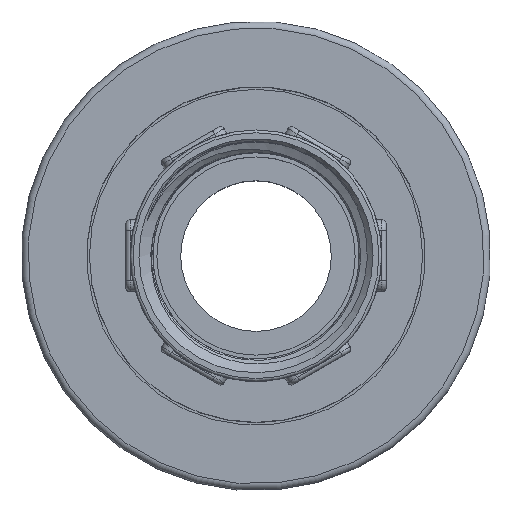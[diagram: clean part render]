
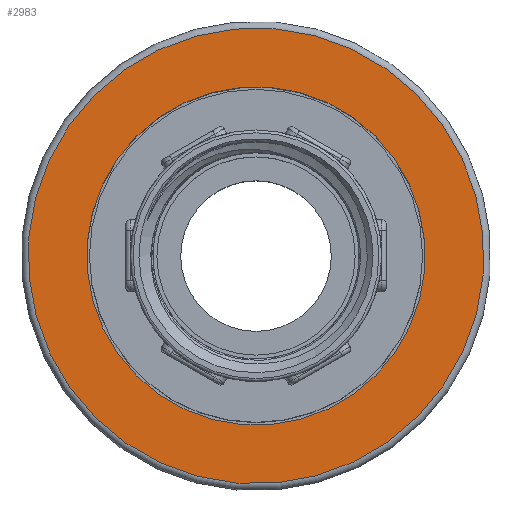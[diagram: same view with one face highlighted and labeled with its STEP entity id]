
A CAD part, top view. The second image highlights one B-rep face of the part: STEP entity #2983.
In plain terms, the highlighted planar face has unit normal (0, 0, 1).
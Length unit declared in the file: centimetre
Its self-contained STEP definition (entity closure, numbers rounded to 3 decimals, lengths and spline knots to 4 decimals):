
#569=FACE_BOUND('',#878,.T.);
#679=FACE_OUTER_BOUND('',#877,.T.);
#877=EDGE_LOOP('',(#2278));
#878=EDGE_LOOP('',(#2279));
#1059=CIRCLE('',#3249,1.65);
#1061=CIRCLE('',#3252,1.225);
#1290=VERTEX_POINT('',#11002);
#1292=VERTEX_POINT('',#11007);
#1636=EDGE_CURVE('',#1290,#1290,#1059,.T.);
#1638=EDGE_CURVE('',#1292,#1292,#1061,.T.);
#2278=ORIENTED_EDGE('',*,*,#1636,.F.);
#2279=ORIENTED_EDGE('',*,*,#1638,.T.);
#2677=PLANE('',#3251);
#2983=ADVANCED_FACE('',(#679,#569),#2677,.T.);
#3249=AXIS2_PLACEMENT_3D('',#11003,#3868,#3869);
#3251=AXIS2_PLACEMENT_3D('',#11006,#3872,#3873);
#3252=AXIS2_PLACEMENT_3D('',#11008,#3874,#3875);
#3868=DIRECTION('center_axis',(0.,0.,
-1.));
#3869=DIRECTION('ref_axis',(0.419,0.908,0.));
#3872=DIRECTION('center_axis',(0.,0.,
1.));
#3873=DIRECTION('ref_axis',(0.908,-0.419,0.));
#3874=DIRECTION('center_axis',(0.,0.,
-1.));
#3875=DIRECTION('ref_axis',(0.419,0.908,0.));
#11002=CARTESIAN_POINT('',(-0.692,-1.4979,1.19));
#11003=CARTESIAN_POINT('Origin',(0.,0.,
1.19));
#11006=CARTESIAN_POINT('Origin',(-0.7129,-1.5433,1.19));
#11007=CARTESIAN_POINT('',(-0.5137,-1.1121,1.19));
#11008=CARTESIAN_POINT('Origin',(0.,0.,
1.19));
